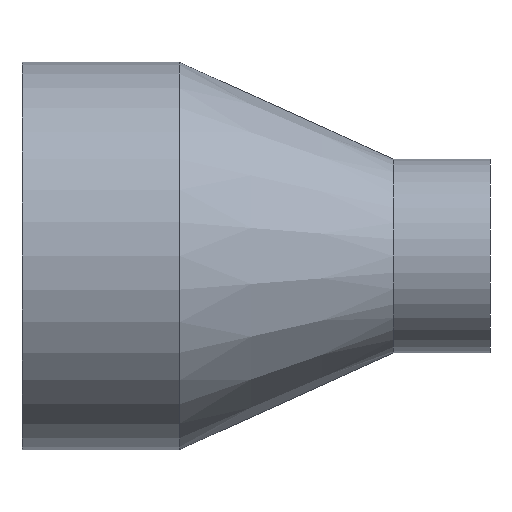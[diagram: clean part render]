
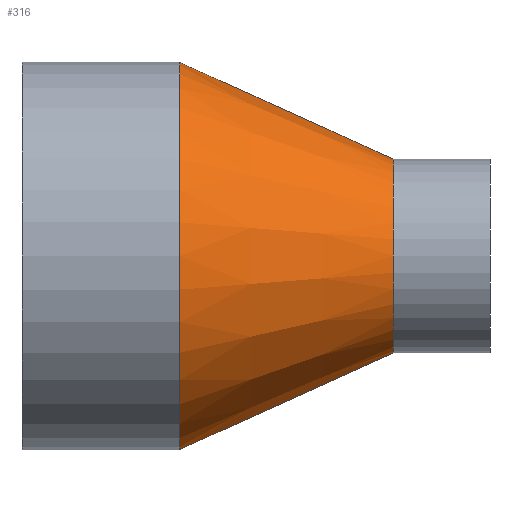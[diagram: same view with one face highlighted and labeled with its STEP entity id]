
A CAD part, front view. The second image highlights one B-rep face of the part: STEP entity #316.
In plain terms, the highlighted conical face has half-angle 24.385 degrees and reference radius 38.1 mm.
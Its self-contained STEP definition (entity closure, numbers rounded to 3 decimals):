
#17 = CIRCLE ( 'NONE', #249, 38.1 ) ;
#44 = EDGE_CURVE ( 'NONE', #254, #506, #260, .T. ) ;
#52 = VECTOR ( 'NONE', #184, 1000. ) ;
#63 = CARTESIAN_POINT ( 'NONE',  ( 146.05, 0., -38.1 ) ) ;
#75 = DIRECTION ( 'NONE',  ( 0., 0., -1. ) ) ;
#107 = AXIS2_PLACEMENT_3D ( 'NONE', #153, #432, #278 ) ;
#115 = FACE_OUTER_BOUND ( 'NONE', #355, .T. ) ;
#130 = EDGE_CURVE ( 'NONE', #285, #376, #141, .T. ) ;
#141 = LINE ( 'NONE', #63, #52 ) ;
#153 = CARTESIAN_POINT ( 'NONE',  ( 146.05, 0., 0. ) ) ;
#158 = ORIENTED_EDGE ( 'NONE', *, *, #265, .T. ) ;
#161 = CARTESIAN_POINT ( 'NONE',  ( 146.05, 0., -38.1 ) ) ;
#184 = DIRECTION ( 'NONE',  ( -0.911, 0., -0.413 ) ) ;
#198 = DIRECTION ( 'NONE',  ( -1., 0., 0. ) ) ;
#210 = CARTESIAN_POINT ( 'NONE',  ( 62.155, 0., 76.13 ) ) ;
#249 = AXIS2_PLACEMENT_3D ( 'NONE', #481, #198, #317 ) ;
#254 = VERTEX_POINT ( 'NONE', #479 ) ;
#260 = LINE ( 'NONE', #367, #456 ) ;
#265 = EDGE_CURVE ( 'NONE', #506, #376, #452, .T. ) ;
#271 = CARTESIAN_POINT ( 'NONE',  ( 62.155, 0., -76.13 ) ) ;
#278 = DIRECTION ( 'NONE',  ( 0., 0., 1. ) ) ;
#280 = CARTESIAN_POINT ( 'NONE',  ( 62.155, 0., 0. ) ) ;
#283 = ORIENTED_EDGE ( 'NONE', *, *, #352, .T. ) ;
#285 = VERTEX_POINT ( 'NONE', #161 ) ;
#315 = DIRECTION ( 'NONE',  ( 1., 0., 0. ) ) ;
#316 = ADVANCED_FACE ( 'NONE', ( #115 ), #405, .T. ) ;
#317 = DIRECTION ( 'NONE',  ( 0., 0., 1. ) ) ;
#330 = DIRECTION ( 'NONE',  ( -0.911, 0., 0.413 ) ) ;
#338 = ORIENTED_EDGE ( 'NONE', *, *, #130, .F. ) ;
#352 = EDGE_CURVE ( 'NONE', #285, #254, #17, .T. ) ;
#355 = EDGE_LOOP ( 'NONE', ( #338, #283, #424, #158 ) ) ;
#367 = CARTESIAN_POINT ( 'NONE',  ( 146.05, 0., 38.1 ) ) ;
#376 = VERTEX_POINT ( 'NONE', #271 ) ;
#405 = CONICAL_SURFACE ( 'NONE', #107, 38.1, 0.426 ) ;
#424 = ORIENTED_EDGE ( 'NONE', *, *, #44, .T. ) ;
#432 = DIRECTION ( 'NONE',  ( -1., 0., 0. ) ) ;
#452 = CIRCLE ( 'NONE', #502, 76.13 ) ;
#456 = VECTOR ( 'NONE', #330, 1000. ) ;
#479 = CARTESIAN_POINT ( 'NONE',  ( 146.05, 0., 38.1 ) ) ;
#481 = CARTESIAN_POINT ( 'NONE',  ( 146.05, 0., 0. ) ) ;
#502 = AXIS2_PLACEMENT_3D ( 'NONE', #280, #315, #75 ) ;
#506 = VERTEX_POINT ( 'NONE', #210 ) ;
